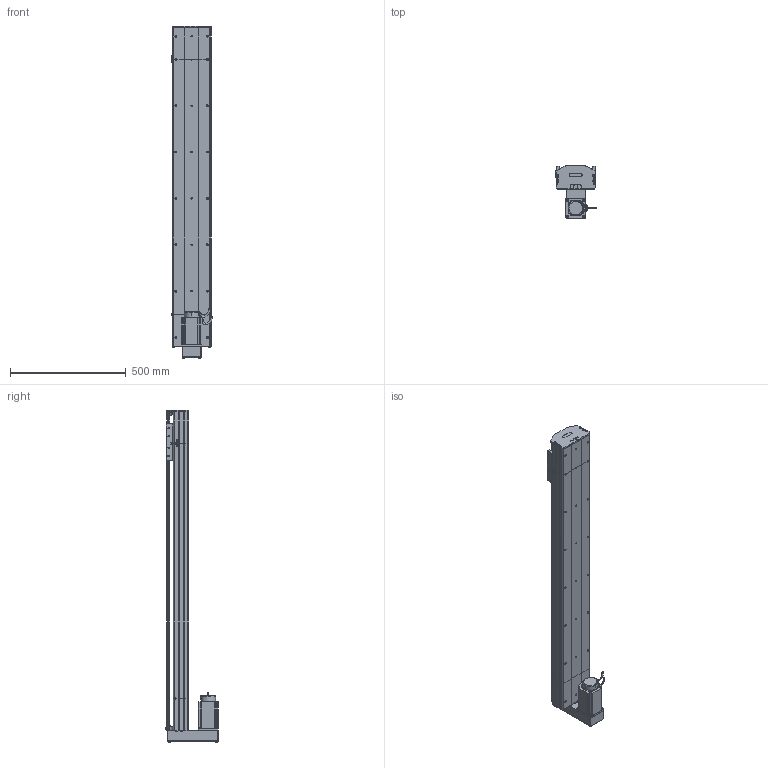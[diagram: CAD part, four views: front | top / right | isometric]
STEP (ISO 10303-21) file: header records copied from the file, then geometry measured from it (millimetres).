
FILE_DESCRIPTION (( 'STEP AP214' ), '1' );
FILE_NAME ('D17 TSH BM S1100.STEP', '2010-06-30T06:57:23', ( 'Christophe Gaillard' ), ( 'SGA' ), 'SwSTEP 2.0', 'SolidWorks 2010', '' );
FILE_SCHEMA (( 'AUTOMOTIVE_DESIGN' ));
Length unit declared in the file: millimetre
Products named in the file (33): plaque de  bout tail D17_Default; Moteur motionking 90BLDC125A-640; vis M5 L5_Default; Arbre+rail head D17; plaque de  bout BM head D17_Default; couvercle D17 head_Default; corpl head D17 BM_Default; head BM_Default; vis M5 L25_Default; vis M5 L8 90°_Default; couvercle D17_Default; Arbre+rail tail D17; tete d''axe haut D17; tete d''axe bas D17; vis M5 L12_Default; guide D17; Chariot D17; chariot D17S_Default; Cvis M5 L70_Default; Conecteur2_Default; codeur 90BLDC125-640; corps 90BLDC125A-640; renvoi Bm_Default; Vis M5 L16-2_Default; Conecteur_Default; avant 90BLDC125A-640; D17  TSH BM S1100; corp D17 1100_Default; arbre + rail D17 Course 1100 ; course 1100 D17_Default; corpl tail D17+L100_Default; Tail D17+L100_Default; couvercle D17 course L1100_Default
Assembly tree (55 placements, depth 4):
  D17  TSH BM S1100
    head BM_Default
      vis M5 L12_Default  x8
      plaque de  bout BM head D17_Default
      Vis M5 L16-2_Default  x4
      Cvis M5 L70_Default  x2
      vis M5 L5_Default  x2
      renvoi Bm_Default
      couvercle D17 head_Default
      corpl head D17 BM_Default
      Arbre+rail head D17
      Moteur motionking 90BLDC125A-640
        corps 90BLDC125A-640
        codeur 90BLDC125-640
        Conecteur_Default
        Conecteur2_Default
        avant 90BLDC125A-640
    chariot D17S_Default
      vis M5 L12_Default  x4
      guide D17  x2
      Chariot D17
    course 1100 D17_Default
      corp D17 1100_Default
      arbre + rail D17 Course 1100 
      couvercle D17 course L1100_Default
    Tail D17+L100_Default
      couvercle D17_Default
      vis M5 L25_Default  x2
      corpl tail D17+L100_Default
      tete d''axe haut D17
      plaque de  bout tail D17_Default
      vis M5 L12_Default  x4
      tete d''axe bas D17
      vis M5 L8 90°_Default  x2
      Arbre+rail tail D17
Bounding box: 174.95 x 225.7 x 1432.7 mm (x, y, z)
Volume: 9266353.4 mm3; surface area: 2369785.5 mm2
Topology: 80 solids, 80 shells, 2277 faces, 5752 edges, 3710 vertices
Faces by surface type: plane 1400, cylinder 600, bspline 136, torus 73, cone 64, sphere 4
Entity records: 73826 total; most frequent: CARTESIAN_POINT 22943, ORIENTED_EDGE 9012, DIRECTION 8435, EDGE_CURVE 4506, VECTOR 3099, LINE 3099, VERTEX_POINT 2956, AXIS2_PLACEMENT_3D 2668
